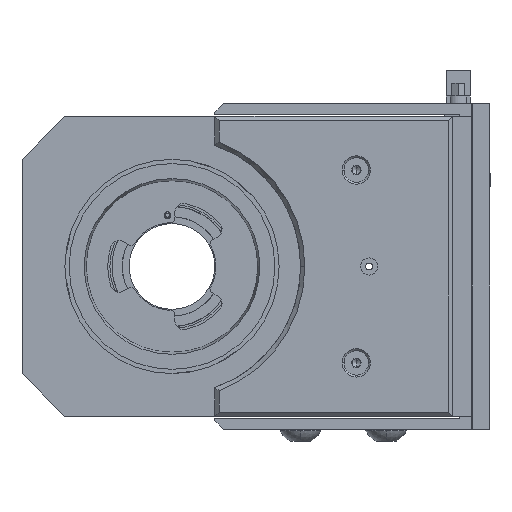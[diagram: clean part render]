
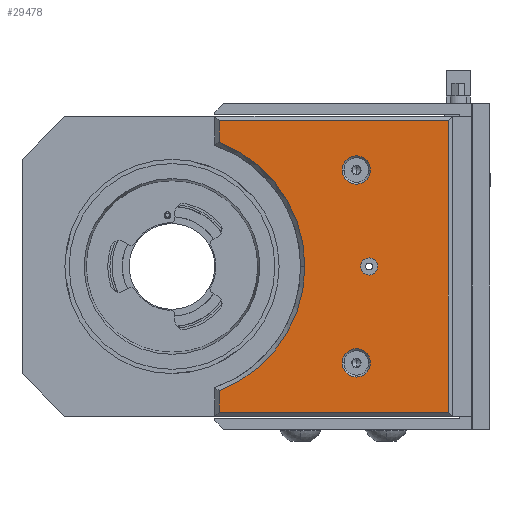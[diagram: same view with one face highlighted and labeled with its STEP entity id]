
A CAD part, front view. The second image highlights one B-rep face of the part: STEP entity #29478.
In plain terms, the highlighted planar face has unit normal (0, -1, 0).
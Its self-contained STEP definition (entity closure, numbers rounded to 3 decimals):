
#70 = EDGE_CURVE ( 'NONE', #26434, #16604, #9511, .T. ) ;
#381 = LINE ( 'NONE', #28002, #6302 ) ;
#1346 = EDGE_CURVE ( 'NONE', #21722, #17222, #14065, .T. ) ;
#1858 = CARTESIAN_POINT ( 'NONE',  ( 28.8, -2., 22.5 ) ) ;
#2088 = DIRECTION ( 'NONE',  ( -1., 0., 0. ) ) ;
#2131 = ORIENTED_EDGE ( 'NONE', *, *, #5552, .T. ) ;
#2162 = VECTOR ( 'NONE', #2088, 1000. ) ;
#2293 = DIRECTION ( 'NONE',  ( 1., 0., 0. ) ) ;
#2468 = VECTOR ( 'NONE', #16836, 1000. ) ;
#2949 = CIRCLE ( 'NONE', #12670, 3.3 ) ;
#2973 = VERTEX_POINT ( 'NONE', #17989 ) ;
#3055 = CARTESIAN_POINT ( 'NONE',  ( -6.5, -2., -34. ) ) ;
#3323 = CARTESIAN_POINT ( 'NONE',  ( 13.5, -2., 0. ) ) ;
#3402 = VERTEX_POINT ( 'NONE', #22181 ) ;
#3720 = ORIENTED_EDGE ( 'NONE', *, *, #14038, .T. ) ;
#4119 = CARTESIAN_POINT ( 'NONE',  ( 47., -2., -34. ) ) ;
#4443 = FACE_BOUND ( 'NONE', #23330, .T. ) ;
#4918 = EDGE_CURVE ( 'NONE', #14501, #2973, #15874, .T. ) ;
#5094 = CARTESIAN_POINT ( 'NONE',  ( 30.5, -2., 0. ) ) ;
#5156 = VERTEX_POINT ( 'NONE', #28839 ) ;
#5552 = EDGE_CURVE ( 'NONE', #27743, #18350, #381, .T. ) ;
#6045 = AXIS2_PLACEMENT_3D ( 'NONE', #31579, #14069, #29066 ) ;
#6093 = CARTESIAN_POINT ( 'NONE',  ( 25.5, -2., 22.5 ) ) ;
#6302 = VECTOR ( 'NONE', #11309, 1000. ) ;
#6430 = AXIS2_PLACEMENT_3D ( 'NONE', #29774, #14800, #32305 ) ;
#6919 = AXIS2_PLACEMENT_3D ( 'NONE', #8702, #13699, #13235 ) ;
#8299 = DIRECTION ( 'NONE',  ( 1., 0., 0. ) ) ;
#8650 = DIRECTION ( 'NONE',  ( 1., 0., 0. ) ) ;
#8702 = CARTESIAN_POINT ( 'NONE',  ( 25.5, -2., -22.5 ) ) ;
#8803 = ORIENTED_EDGE ( 'NONE', *, *, #12569, .T. ) ;
#9129 = EDGE_CURVE ( 'NONE', #3402, #5156, #25125, .T. ) ;
#9511 = CIRCLE ( 'NONE', #6045, 3.3 ) ;
#9979 = EDGE_CURVE ( 'NONE', #27290, #16398, #28509, .T. ) ;
#10202 = EDGE_CURVE ( 'NONE', #5156, #3402, #2949, .T. ) ;
#10719 = CARTESIAN_POINT ( 'NONE',  ( 28.5, -2., 0. ) ) ;
#11309 = DIRECTION ( 'NONE',  ( 0., 0., -1. ) ) ;
#11719 = CIRCLE ( 'NONE', #12079, 2. ) ;
#11728 = DIRECTION ( 'NONE',  ( 1., 0., 0. ) ) ;
#11885 = DIRECTION ( 'NONE',  ( 0., 1., 0. ) ) ;
#11942 = CARTESIAN_POINT ( 'NONE',  ( 22.2, -2., 22.5 ) ) ;
#12079 = AXIS2_PLACEMENT_3D ( 'NONE', #10719, #28305, #13287 ) ;
#12104 = ORIENTED_EDGE ( 'NONE', *, *, #70, .F. ) ;
#12142 = VECTOR ( 'NONE', #2293, 1000. ) ;
#12274 = AXIS2_PLACEMENT_3D ( 'NONE', #26915, #11885, #29430 ) ;
#12569 = EDGE_CURVE ( 'NONE', #25857, #27290, #21399, .T. ) ;
#12670 = AXIS2_PLACEMENT_3D ( 'NONE', #17467, #17387, #11728 ) ;
#13235 = DIRECTION ( 'NONE',  ( 1., 0., 0. ) ) ;
#13281 = CARTESIAN_POINT ( 'NONE',  ( -17.5, -2., 0. ) ) ;
#13287 = DIRECTION ( 'NONE',  ( 1., 0., 0. ) ) ;
#13619 = EDGE_LOOP ( 'NONE', ( #31114, #14734 ) ) ;
#13699 = DIRECTION ( 'NONE',  ( 0., -1., 0. ) ) ;
#14038 = EDGE_CURVE ( 'NONE', #18350, #14501, #31325, .T. ) ;
#14062 = ORIENTED_EDGE ( 'NONE', *, *, #1346, .F. ) ;
#14065 = CIRCLE ( 'NONE', #28646, 2. ) ;
#14069 = DIRECTION ( 'NONE',  ( 0., -1., 0. ) ) ;
#14396 = ORIENTED_EDGE ( 'NONE', *, *, #26846, .F. ) ;
#14501 = VERTEX_POINT ( 'NONE', #4119 ) ;
#14635 = ORIENTED_EDGE ( 'NONE', *, *, #28452, .F. ) ;
#14734 = ORIENTED_EDGE ( 'NONE', *, *, #9129, .F. ) ;
#14755 = VECTOR ( 'NONE', #25701, 1000. ) ;
#14800 = DIRECTION ( 'NONE',  ( 0., 1., 0. ) ) ;
#15843 = ORIENTED_EDGE ( 'NONE', *, *, #26400, .T. ) ;
#15874 = LINE ( 'NONE', #26781, #2468 ) ;
#16398 = VERTEX_POINT ( 'NONE', #3323 ) ;
#16604 = VERTEX_POINT ( 'NONE', #11942 ) ;
#16836 = DIRECTION ( 'NONE',  ( 0., 0., 1. ) ) ;
#17095 = ORIENTED_EDGE ( 'NONE', *, *, #4918, .T. ) ;
#17190 = PLANE ( 'NONE',  #6430 ) ;
#17222 = VERTEX_POINT ( 'NONE', #5094 ) ;
#17365 = CARTESIAN_POINT ( 'NONE',  ( -7.5, -2., -34. ) ) ;
#17387 = DIRECTION ( 'NONE',  ( 0., -1., 0. ) ) ;
#17467 = CARTESIAN_POINT ( 'NONE',  ( 25.5, -2., -22.5 ) ) ;
#17752 = CARTESIAN_POINT ( 'NONE',  ( -6.5, -2., 28.983 ) ) ;
#17868 = FACE_OUTER_BOUND ( 'NONE', #25338, .T. ) ;
#17989 = CARTESIAN_POINT ( 'NONE',  ( 47., -2., 34. ) ) ;
#18350 = VERTEX_POINT ( 'NONE', #3055 ) ;
#19563 = EDGE_LOOP ( 'NONE', ( #12104, #14635 ) ) ;
#19702 = CARTESIAN_POINT ( 'NONE',  ( -7.5, -2., 34. ) ) ;
#20127 = EDGE_CURVE ( 'NONE', #2973, #25857, #28105, .T. ) ;
#20554 = CARTESIAN_POINT ( 'NONE',  ( -6.5, -2., -28.983 ) ) ;
#20862 = DIRECTION ( 'NONE',  ( 0., -1., 0. ) ) ;
#20910 = ORIENTED_EDGE ( 'NONE', *, *, #9979, .T. ) ;
#21399 = LINE ( 'NONE', #28219, #14755 ) ;
#21722 = VERTEX_POINT ( 'NONE', #31619 ) ;
#22181 = CARTESIAN_POINT ( 'NONE',  ( 22.2, -2., -22.5 ) ) ;
#22532 = CIRCLE ( 'NONE', #24316, 3.3 ) ;
#22607 = DIRECTION ( 'NONE',  ( 0., 1., 0. ) ) ;
#22718 = DIRECTION ( 'NONE',  ( -1., 0., 0. ) ) ;
#23241 = CARTESIAN_POINT ( 'NONE',  ( 28.5, -2., 0. ) ) ;
#23330 = EDGE_LOOP ( 'NONE', ( #14396, #14062 ) ) ;
#23685 = DIRECTION ( 'NONE',  ( 0., -1., 0. ) ) ;
#24316 = AXIS2_PLACEMENT_3D ( 'NONE', #6093, #23685, #8650 ) ;
#24539 = FACE_BOUND ( 'NONE', #13619, .T. ) ;
#25125 = CIRCLE ( 'NONE', #6919, 3.3 ) ;
#25338 = EDGE_LOOP ( 'NONE', ( #8803, #20910, #15843, #2131, #3720, #17095, #25791 ) ) ;
#25701 = DIRECTION ( 'NONE',  ( 0., 0., -1. ) ) ;
#25791 = ORIENTED_EDGE ( 'NONE', *, *, #20127, .T. ) ;
#25857 = VERTEX_POINT ( 'NONE', #31774 ) ;
#25916 = CIRCLE ( 'NONE', #12274, 31. ) ;
#26400 = EDGE_CURVE ( 'NONE', #16398, #27743, #25916, .T. ) ;
#26434 = VERTEX_POINT ( 'NONE', #1858 ) ;
#26781 = CARTESIAN_POINT ( 'NONE',  ( 47., -2., 35. ) ) ;
#26846 = EDGE_CURVE ( 'NONE', #17222, #21722, #11719, .T. ) ;
#26915 = CARTESIAN_POINT ( 'NONE',  ( -17.5, -2., 0. ) ) ;
#27290 = VERTEX_POINT ( 'NONE', #17752 ) ;
#27743 = VERTEX_POINT ( 'NONE', #20554 ) ;
#28002 = CARTESIAN_POINT ( 'NONE',  ( -6.5, -2., 35. ) ) ;
#28105 = LINE ( 'NONE', #19702, #2162 ) ;
#28219 = CARTESIAN_POINT ( 'NONE',  ( -6.5, -2., 35. ) ) ;
#28305 = DIRECTION ( 'NONE',  ( 0., -1., 0. ) ) ;
#28452 = EDGE_CURVE ( 'NONE', #16604, #26434, #22532, .T. ) ;
#28509 = CIRCLE ( 'NONE', #30687, 31. ) ;
#28646 = AXIS2_PLACEMENT_3D ( 'NONE', #23241, #20862, #8299 ) ;
#28839 = CARTESIAN_POINT ( 'NONE',  ( 28.8, -2., -22.5 ) ) ;
#29066 = DIRECTION ( 'NONE',  ( 1., 0., 0. ) ) ;
#29430 = DIRECTION ( 'NONE',  ( -1., 0., 0. ) ) ;
#29478 = ADVANCED_FACE ( 'NONE', ( #24539, #30370, #17868, #4443 ), #17190, .F. ) ;
#29774 = CARTESIAN_POINT ( 'NONE',  ( -7.5, -2., 35. ) ) ;
#30370 = FACE_BOUND ( 'NONE', #19563, .T. ) ;
#30687 = AXIS2_PLACEMENT_3D ( 'NONE', #13281, #22607, #22718 ) ;
#31114 = ORIENTED_EDGE ( 'NONE', *, *, #10202, .F. ) ;
#31325 = LINE ( 'NONE', #17365, #12142 ) ;
#31579 = CARTESIAN_POINT ( 'NONE',  ( 25.5, -2., 22.5 ) ) ;
#31619 = CARTESIAN_POINT ( 'NONE',  ( 26.5, -2., 0. ) ) ;
#31774 = CARTESIAN_POINT ( 'NONE',  ( -6.5, -2., 34. ) ) ;
#32305 = DIRECTION ( 'NONE',  ( -1., 0., 0. ) ) ;
